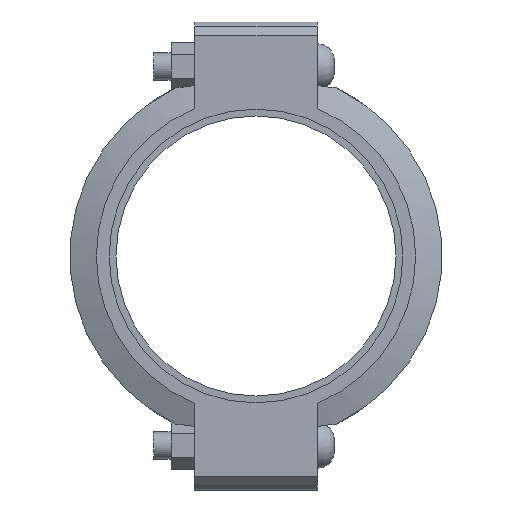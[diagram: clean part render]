
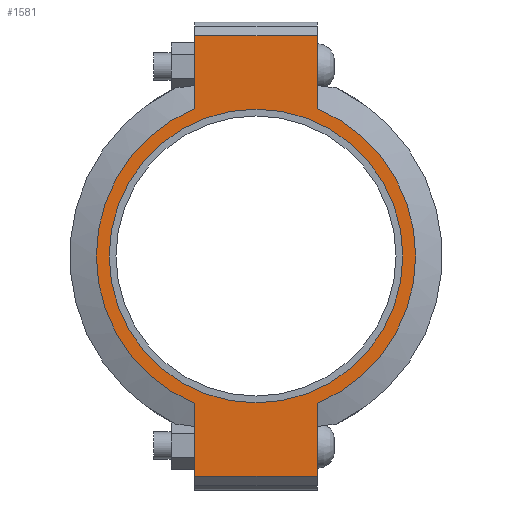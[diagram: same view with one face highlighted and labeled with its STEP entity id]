
A CAD part, left-side view. The second image highlights one B-rep face of the part: STEP entity #1581.
In plain terms, the highlighted planar face has unit normal (-1, 0, 0) as drawn and (0, 0, 1) by its records, which use the part's own axes.
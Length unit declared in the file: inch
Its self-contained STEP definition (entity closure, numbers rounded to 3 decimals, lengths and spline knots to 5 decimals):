
#152=LINE('',#2731,#241);
#163=LINE('',#2782,#252);
#169=LINE('',#2808,#258);
#171=LINE('',#2811,#260);
#172=LINE('',#2816,#261);
#173=LINE('',#2817,#262);
#241=VECTOR('',#2231,0.3937);
#252=VECTOR('',#2262,0.3937);
#258=VECTOR('',#2280,0.3937);
#260=VECTOR('',#2284,0.3937);
#261=VECTOR('',#2289,0.3937);
#262=VECTOR('',#2290,0.3937);
#324=FACE_BOUND('',#501,.T.);
#392=FACE_OUTER_BOUND('',#500,.T.);
#500=EDGE_LOOP('',(#1276,#1277,#1278,#1279,#1280,#1281,#1282,#1283));
#501=EDGE_LOOP('',(#1284));
#583=CIRCLE('',#1809,5.375);
#607=CIRCLE('',#1861,5.845);
#608=CIRCLE('',#1862,5.845);
#679=VERTEX_POINT('',#2557);
#720=VERTEX_POINT('',#2728);
#721=VERTEX_POINT('',#2730);
#738=VERTEX_POINT('',#2777);
#739=VERTEX_POINT('',#2781);
#746=VERTEX_POINT('',#2803);
#747=VERTEX_POINT('',#2807);
#748=VERTEX_POINT('',#2813);
#749=VERTEX_POINT('',#2815);
#843=EDGE_CURVE('',#679,#679,#583,.T.);
#900=EDGE_CURVE('',#721,#720,#152,.T.);
#921=EDGE_CURVE('',#739,#738,#163,.T.);
#932=EDGE_CURVE('',#747,#746,#169,.T.);
#934=EDGE_CURVE('',#747,#720,#171,.T.);
#935=EDGE_CURVE('',#746,#748,#607,.T.);
#936=EDGE_CURVE('',#748,#749,#172,.T.);
#937=EDGE_CURVE('',#739,#749,#173,.T.);
#938=EDGE_CURVE('',#738,#721,#608,.T.);
#1276=ORIENTED_EDGE('',*,*,#934,.F.);
#1277=ORIENTED_EDGE('',*,*,#932,.T.);
#1278=ORIENTED_EDGE('',*,*,#935,.T.);
#1279=ORIENTED_EDGE('',*,*,#936,.T.);
#1280=ORIENTED_EDGE('',*,*,#937,.F.);
#1281=ORIENTED_EDGE('',*,*,#921,.T.);
#1282=ORIENTED_EDGE('',*,*,#938,.T.);
#1283=ORIENTED_EDGE('',*,*,#900,.T.);
#1284=ORIENTED_EDGE('',*,*,#843,.T.);
#1421=PLANE('',#1860);
#1581=ADVANCED_FACE('',(#392,#324),#1421,.T.);
#1809=AXIS2_PLACEMENT_3D('',#2559,#2121,#2122);
#1860=AXIS2_PLACEMENT_3D('',#2812,#2285,#2286);
#1861=AXIS2_PLACEMENT_3D('',#2814,#2287,#2288);
#1862=AXIS2_PLACEMENT_3D('',#2818,#2291,#2292);
#2121=DIRECTION('center_axis',(0.,0.,-1.));
#2122=DIRECTION('ref_axis',(-1.,0.,0.));
#2231=DIRECTION('',(-1.,0.,0.));
#2262=DIRECTION('',(-1.,0.,0.));
#2280=DIRECTION('',(1.,0.,0.));
#2284=DIRECTION('',(0.,1.,0.));
#2285=DIRECTION('center_axis',(0.,0.,1.));
#2286=DIRECTION('ref_axis',(1.,0.,0.));
#2287=DIRECTION('center_axis',(0.,0.,1.));
#2288=DIRECTION('ref_axis',(-1.,0.,0.));
#2289=DIRECTION('',(1.,0.,0.));
#2290=DIRECTION('',(0.,-1.,0.));
#2291=DIRECTION('center_axis',(0.,0.,1.));
#2292=DIRECTION('ref_axis',(-1.,0.,0.));
#2557=CARTESIAN_POINT('',(5.375,0.,1.315));
#2559=CARTESIAN_POINT('Origin',(0.,0.,1.315));
#2728=CARTESIAN_POINT('',(-8.065,2.25,1.315));
#2730=CARTESIAN_POINT('',(-5.39458,2.25,1.315));
#2731=CARTESIAN_POINT('',(8.565,2.25,1.315));
#2777=CARTESIAN_POINT('',(5.39458,2.25,1.315));
#2781=CARTESIAN_POINT('',(8.065,2.25,1.315));
#2782=CARTESIAN_POINT('',(8.565,2.25,1.315));
#2803=CARTESIAN_POINT('',(-5.39458,-2.25,1.315));
#2807=CARTESIAN_POINT('',(-8.065,-2.25,1.315));
#2808=CARTESIAN_POINT('',(-8.565,-2.25,1.315));
#2811=CARTESIAN_POINT('',(-8.065,1.125,1.315));
#2812=CARTESIAN_POINT('Origin',(0.,0.,
1.315));
#2813=CARTESIAN_POINT('',(5.39458,-2.25,1.315));
#2814=CARTESIAN_POINT('Origin',(0.,0.,1.315));
#2815=CARTESIAN_POINT('',(8.065,-2.25,1.315));
#2816=CARTESIAN_POINT('',(-8.565,-2.25,1.315));
#2817=CARTESIAN_POINT('',(8.065,-1.125,1.315));
#2818=CARTESIAN_POINT('Origin',(0.,0.,1.315));
